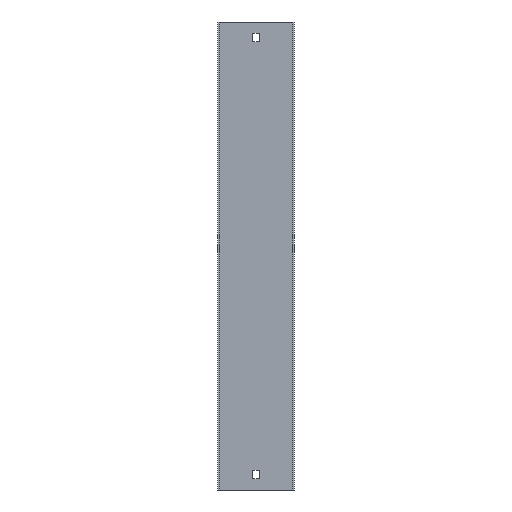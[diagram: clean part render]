
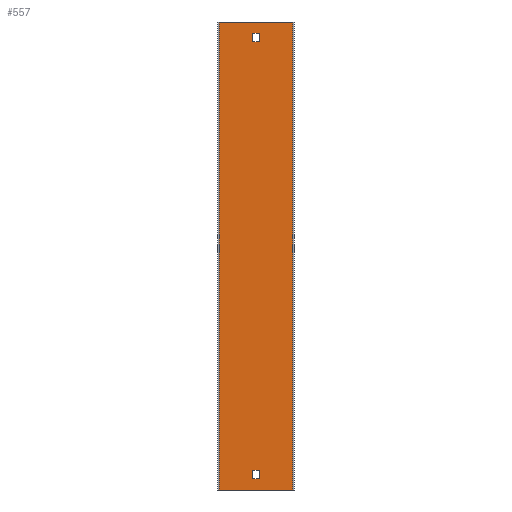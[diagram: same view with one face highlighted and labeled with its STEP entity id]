
A CAD part, front view. The second image highlights one B-rep face of the part: STEP entity #557.
In plain terms, the highlighted planar face has unit normal (0, -1, 0).
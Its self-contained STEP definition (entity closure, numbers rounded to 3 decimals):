
#10 = ORIENTED_EDGE ( 'NONE', *, *, #588, .T. ) ;
#30 = LINE ( 'NONE', #205, #116 ) ;
#33 = FACE_BOUND ( 'NONE', #189, .T. ) ;
#35 = VECTOR ( 'NONE', #248, 1000. ) ;
#36 = EDGE_CURVE ( 'NONE', #372, #41, #396, .T. ) ;
#39 = VECTOR ( 'NONE', #508, 1000. ) ;
#41 = VERTEX_POINT ( 'NONE', #168 ) ;
#45 = LINE ( 'NONE', #98, #306 ) ;
#49 = ORIENTED_EDGE ( 'NONE', *, *, #170, .T. ) ;
#55 = DIRECTION ( 'NONE',  ( 0., 0., 1. ) ) ;
#58 = EDGE_CURVE ( 'NONE', #370, #296, #85, .T. ) ;
#64 = VERTEX_POINT ( 'NONE', #440 ) ;
#65 = VECTOR ( 'NONE', #375, 1000. ) ;
#76 = ORIENTED_EDGE ( 'NONE', *, *, #152, .T. ) ;
#85 = LINE ( 'NONE', #347, #400 ) ;
#87 = VERTEX_POINT ( 'NONE', #424 ) ;
#90 = CARTESIAN_POINT ( 'NONE',  ( -3.25, -1.5, 229. ) ) ;
#91 = EDGE_CURVE ( 'NONE', #64, #279, #510, .T. ) ;
#94 = EDGE_CURVE ( 'NONE', #87, #140, #154, .T. ) ;
#95 = CARTESIAN_POINT ( 'NONE',  ( -3.25, -1.5, 238. ) ) ;
#98 = CARTESIAN_POINT ( 'NONE',  ( -3.25, -1.5, 250. ) ) ;
#107 = ORIENTED_EDGE ( 'NONE', *, *, #343, .F. ) ;
#112 = EDGE_CURVE ( 'NONE', #296, #591, #197, .T. ) ;
#116 = VECTOR ( 'NONE', #499, 1000. ) ;
#120 = DIRECTION ( 'NONE',  ( 0., -1., 0. ) ) ;
#125 = LINE ( 'NONE', #490, #35 ) ;
#140 = VERTEX_POINT ( 'NONE', #465 ) ;
#141 = CARTESIAN_POINT ( 'NONE',  ( -3.25, -1.5, -238. ) ) ;
#144 = DIRECTION ( 'NONE',  ( 1., 0., 0. ) ) ;
#148 = LINE ( 'NONE', #464, #463 ) ;
#152 = EDGE_CURVE ( 'NONE', #591, #514, #188, .T. ) ;
#154 = LINE ( 'NONE', #281, #376 ) ;
#159 = VERTEX_POINT ( 'NONE', #466 ) ;
#162 = PLANE ( 'NONE',  #432 ) ;
#163 = ORIENTED_EDGE ( 'NONE', *, *, #467, .F. ) ;
#165 = DIRECTION ( 'NONE',  ( 0., 0., -1. ) ) ;
#168 = CARTESIAN_POINT ( 'NONE',  ( 3.25, -1.5, 229. ) ) ;
#170 = EDGE_CURVE ( 'NONE', #514, #370, #319, .T. ) ;
#172 = VECTOR ( 'NONE', #247, 1000. ) ;
#188 = LINE ( 'NONE', #366, #411 ) ;
#189 = EDGE_LOOP ( 'NONE', ( #107, #264, #568, #512 ) ) ;
#197 = LINE ( 'NONE', #417, #210 ) ;
#205 = CARTESIAN_POINT ( 'NONE',  ( -41., -1.5, 250. ) ) ;
#208 = FACE_BOUND ( 'NONE', #469, .T. ) ;
#210 = VECTOR ( 'NONE', #55, 1000. ) ;
#215 = ORIENTED_EDGE ( 'NONE', *, *, #112, .T. ) ;
#232 = DIRECTION ( 'NONE',  ( 0., 0., -1. ) ) ;
#237 = CARTESIAN_POINT ( 'NONE',  ( -39.5, -1.5, 250. ) ) ;
#247 = DIRECTION ( 'NONE',  ( 1., 0., 0. ) ) ;
#248 = DIRECTION ( 'NONE',  ( 0., 0., 1. ) ) ;
#264 = ORIENTED_EDGE ( 'NONE', *, *, #91, .F. ) ;
#269 = CARTESIAN_POINT ( 'NONE',  ( 39.5, -1.5, 250. ) ) ;
#270 = CARTESIAN_POINT ( 'NONE',  ( -3.25, -1.5, -229. ) ) ;
#279 = VERTEX_POINT ( 'NONE', #95 ) ;
#281 = CARTESIAN_POINT ( 'NONE',  ( -41., -1.5, -250. ) ) ;
#286 = LINE ( 'NONE', #237, #541 ) ;
#296 = VERTEX_POINT ( 'NONE', #141 ) ;
#306 = VECTOR ( 'NONE', #406, 1000. ) ;
#319 = LINE ( 'NONE', #371, #39 ) ;
#332 = ORIENTED_EDGE ( 'NONE', *, *, #94, .F. ) ;
#343 = EDGE_CURVE ( 'NONE', #279, #372, #45, .T. ) ;
#347 = CARTESIAN_POINT ( 'NONE',  ( -41., -1.5, -238. ) ) ;
#364 = VERTEX_POINT ( 'NONE', #269 ) ;
#366 = CARTESIAN_POINT ( 'NONE',  ( -41., -1.5, -229. ) ) ;
#370 = VERTEX_POINT ( 'NONE', #496 ) ;
#371 = CARTESIAN_POINT ( 'NONE',  ( 3.25, -1.5, 250. ) ) ;
#372 = VERTEX_POINT ( 'NONE', #90 ) ;
#375 = DIRECTION ( 'NONE',  ( -1., 0., 0. ) ) ;
#376 = VECTOR ( 'NONE', #479, 1000. ) ;
#382 = DIRECTION ( 'NONE',  ( -1., 0., 0. ) ) ;
#389 = CARTESIAN_POINT ( 'NONE',  ( -41., -1.5, 229. ) ) ;
#393 = FACE_OUTER_BOUND ( 'NONE', #430, .T. ) ;
#396 = LINE ( 'NONE', #389, #172 ) ;
#400 = VECTOR ( 'NONE', #382, 1000. ) ;
#406 = DIRECTION ( 'NONE',  ( 0., 0., -1. ) ) ;
#411 = VECTOR ( 'NONE', #144, 1000. ) ;
#417 = CARTESIAN_POINT ( 'NONE',  ( -3.25, -1.5, 250. ) ) ;
#418 = ORIENTED_EDGE ( 'NONE', *, *, #476, .T. ) ;
#424 = CARTESIAN_POINT ( 'NONE',  ( 39.5, -1.5, -250. ) ) ;
#430 = EDGE_LOOP ( 'NONE', ( #332, #163, #10, #418 ) ) ;
#432 = AXIS2_PLACEMENT_3D ( 'NONE', #532, #120, #165 ) ;
#440 = CARTESIAN_POINT ( 'NONE',  ( 3.25, -1.5, 238. ) ) ;
#463 = VECTOR ( 'NONE', #232, 1000. ) ;
#464 = CARTESIAN_POINT ( 'NONE',  ( 39.5, -1.5, 250. ) ) ;
#465 = CARTESIAN_POINT ( 'NONE',  ( -39.5, -1.5, -250. ) ) ;
#466 = CARTESIAN_POINT ( 'NONE',  ( -39.5, -1.5, 250. ) ) ;
#467 = EDGE_CURVE ( 'NONE', #364, #87, #148, .T. ) ;
#469 = EDGE_LOOP ( 'NONE', ( #576, #215, #76, #49 ) ) ;
#476 = EDGE_CURVE ( 'NONE', #159, #140, #286, .T. ) ;
#479 = DIRECTION ( 'NONE',  ( -1., 0., 0. ) ) ;
#490 = CARTESIAN_POINT ( 'NONE',  ( 3.25, -1.5, 250. ) ) ;
#496 = CARTESIAN_POINT ( 'NONE',  ( 3.25, -1.5, -238. ) ) ;
#499 = DIRECTION ( 'NONE',  ( -1., 0., 0. ) ) ;
#503 = DIRECTION ( 'NONE',  ( 0., 0., -1. ) ) ;
#507 = CARTESIAN_POINT ( 'NONE',  ( 3.25, -1.5, -229. ) ) ;
#508 = DIRECTION ( 'NONE',  ( 0., 0., -1. ) ) ;
#510 = LINE ( 'NONE', #566, #65 ) ;
#512 = ORIENTED_EDGE ( 'NONE', *, *, #36, .F. ) ;
#514 = VERTEX_POINT ( 'NONE', #507 ) ;
#532 = CARTESIAN_POINT ( 'NONE',  ( -41., -1.5, 250. ) ) ;
#541 = VECTOR ( 'NONE', #503, 1000. ) ;
#553 = EDGE_CURVE ( 'NONE', #41, #64, #125, .T. ) ;
#557 = ADVANCED_FACE ( 'NONE', ( #33, #393, #208 ), #162, .T. ) ;
#566 = CARTESIAN_POINT ( 'NONE',  ( -41., -1.5, 238. ) ) ;
#568 = ORIENTED_EDGE ( 'NONE', *, *, #553, .F. ) ;
#576 = ORIENTED_EDGE ( 'NONE', *, *, #58, .T. ) ;
#588 = EDGE_CURVE ( 'NONE', #364, #159, #30, .T. ) ;
#591 = VERTEX_POINT ( 'NONE', #270 ) ;
